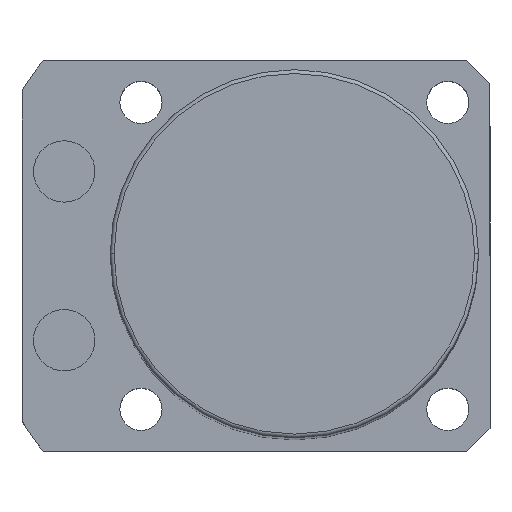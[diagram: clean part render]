
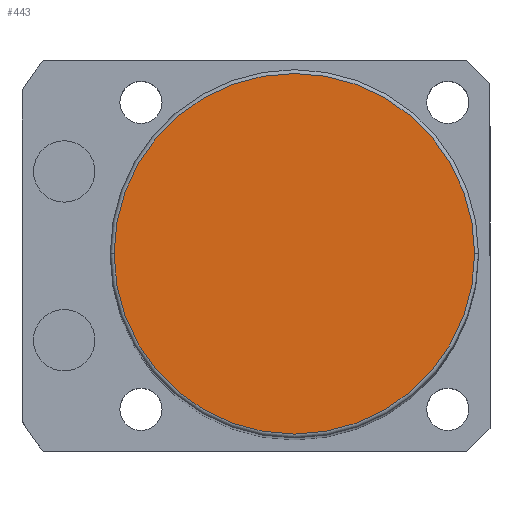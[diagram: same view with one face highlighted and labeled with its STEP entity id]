
A CAD part, top view. The second image highlights one B-rep face of the part: STEP entity #443.
In plain terms, the highlighted planar face has unit normal (0, 0, 1).
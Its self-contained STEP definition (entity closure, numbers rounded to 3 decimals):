
#56 = CIRCLE ( 'NONE', #73, 23.5 ) ;
#73 = AXIS2_PLACEMENT_3D ( 'NONE', #6126, #5590, #2537 ) ;
#443 = ADVANCED_FACE ( 'NONE', ( #4443 ), #1568, .T. ) ;
#462 = DIRECTION ( 'NONE',  ( 0., 0., 1. ) ) ;
#703 = CIRCLE ( 'NONE', #6373, 23.5 ) ;
#790 = ORIENTED_EDGE ( 'NONE', *, *, #5440, .T. ) ;
#1039 = CARTESIAN_POINT ( 'NONE',  ( 0., 0., 166. ) ) ;
#1348 = AXIS2_PLACEMENT_3D ( 'NONE', #1039, #3978, #4530 ) ;
#1568 = PLANE ( 'NONE',  #1348 ) ;
#2537 = DIRECTION ( 'NONE',  ( 1., 0., 0. ) ) ;
#3190 = CARTESIAN_POINT ( 'NONE',  ( -23.5, 0., 166. ) ) ;
#3193 = ORIENTED_EDGE ( 'NONE', *, *, #5161, .T. ) ;
#3768 = VERTEX_POINT ( 'NONE', #3190 ) ;
#3978 = DIRECTION ( 'NONE',  ( 0., 0., 1. ) ) ;
#4026 = DIRECTION ( 'NONE',  ( 1., 0., 0. ) ) ;
#4432 = VERTEX_POINT ( 'NONE', #6035 ) ;
#4443 = FACE_OUTER_BOUND ( 'NONE', #4938, .T. ) ;
#4530 = DIRECTION ( 'NONE',  ( 1., 0., 0. ) ) ;
#4938 = EDGE_LOOP ( 'NONE', ( #790, #3193 ) ) ;
#5161 = EDGE_CURVE ( 'NONE', #3768, #4432, #56, .T. ) ;
#5440 = EDGE_CURVE ( 'NONE', #4432, #3768, #703, .T. ) ;
#5590 = DIRECTION ( 'NONE',  ( 0., 0., 1. ) ) ;
#6035 = CARTESIAN_POINT ( 'NONE',  ( 23.5, 0., 166. ) ) ;
#6126 = CARTESIAN_POINT ( 'NONE',  ( 0., 0., 166. ) ) ;
#6373 = AXIS2_PLACEMENT_3D ( 'NONE', #6536, #462, #4026 ) ;
#6536 = CARTESIAN_POINT ( 'NONE',  ( 0., 0., 166. ) ) ;
